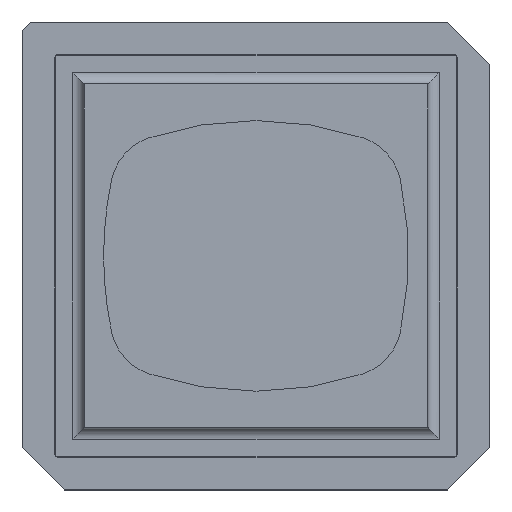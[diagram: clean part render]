
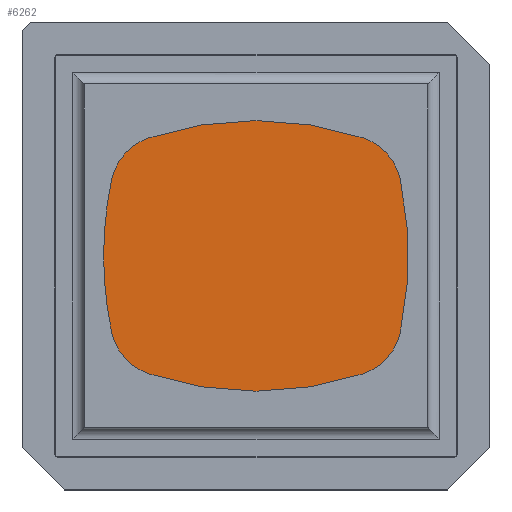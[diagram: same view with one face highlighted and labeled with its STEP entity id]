
A CAD part, top view. The second image highlights one B-rep face of the part: STEP entity #6262.
In plain terms, the highlighted planar face has unit normal (0, 0, 1).
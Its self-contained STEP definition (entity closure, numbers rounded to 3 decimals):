
#121 = CARTESIAN_POINT ( 'NONE',  ( 8.039, 5.806, 2.997 ) ) ;
#127 = CIRCLE ( 'NONE', #3893, 5.08 ) ;
#260 = ORIENTED_EDGE ( 'NONE', *, *, #5900, .F. ) ;
#302 = DIRECTION ( 'NONE',  ( 0., 0., -1. ) ) ;
#394 = CIRCLE ( 'NONE', #1288, 33.02 ) ;
#447 = DIRECTION ( 'NONE',  ( 0., 0., -1. ) ) ;
#553 = EDGE_CURVE ( 'NONE', #1071, #4688, #1819, .T. ) ;
#573 = AXIS2_PLACEMENT_3D ( 'NONE', #3464, #302, #1339 ) ;
#676 = VERTEX_POINT ( 'NONE', #4354 ) ;
#679 = DIRECTION ( 'NONE',  ( 0., 0., -1. ) ) ;
#752 = ORIENTED_EDGE ( 'NONE', *, *, #4280, .F. ) ;
#944 = CARTESIAN_POINT ( 'NONE',  ( -13.729, 0., 2.997 ) ) ;
#958 = CARTESIAN_POINT ( 'NONE',  ( 9.646, 10.625, 2.997 ) ) ;
#964 = VERTEX_POINT ( 'NONE', #3753 ) ;
#968 = AXIS2_PLACEMENT_3D ( 'NONE', #6118, #3525, #4175 ) ;
#1071 = VERTEX_POINT ( 'NONE', #2290 ) ;
#1170 = EDGE_LOOP ( 'NONE', ( #1596, #4345, #4201, #1462, #3496, #2849, #752, #5338, #260 ) ) ;
#1196 = CIRCLE ( 'NONE', #4286, 5.08 ) ;
#1288 = AXIS2_PLACEMENT_3D ( 'NONE', #5013, #2999, #4044 ) ;
#1299 = AXIS2_PLACEMENT_3D ( 'NONE', #121, #679, #2770 ) ;
#1339 = DIRECTION ( 'NONE',  ( -1., 0., 0. ) ) ;
#1462 = ORIENTED_EDGE ( 'NONE', *, *, #2031, .F. ) ;
#1596 = ORIENTED_EDGE ( 'NONE', *, *, #2574, .F. ) ;
#1639 = CARTESIAN_POINT ( 'NONE',  ( -8.039, 5.806, 2.997 ) ) ;
#1642 = DIRECTION ( 'NONE',  ( 0., 0., -1. ) ) ;
#1709 = VERTEX_POINT ( 'NONE', #5464 ) ;
#1722 = CIRCLE ( 'NONE', #2273, 33.02 ) ;
#1819 = CIRCLE ( 'NONE', #3644, 30.48 ) ;
#1838 = EDGE_CURVE ( 'NONE', #964, #5046, #5799, .T. ) ;
#2031 = EDGE_CURVE ( 'NONE', #1709, #4850, #1722, .T. ) ;
#2131 = DIRECTION ( 'NONE',  ( -1., 0., 0. ) ) ;
#2193 = DIRECTION ( 'NONE',  ( -1., 0., 0. ) ) ;
#2273 = AXIS2_PLACEMENT_3D ( 'NONE', #3681, #4720, #4241 ) ;
#2290 = CARTESIAN_POINT ( 'NONE',  ( 9.646, -10.625, 2.997 ) ) ;
#2574 = EDGE_CURVE ( 'NONE', #4688, #676, #1196, .T. ) ;
#2770 = DIRECTION ( 'NONE',  ( -1., 0., 0. ) ) ;
#2818 = DIRECTION ( 'NONE',  ( 0., 0., -1. ) ) ;
#2849 = ORIENTED_EDGE ( 'NONE', *, *, #1838, .F. ) ;
#2858 = CARTESIAN_POINT ( 'NONE',  ( -13.008, 6.862, 2.997 ) ) ;
#2999 = DIRECTION ( 'NONE',  ( 0., 0., -1. ) ) ;
#3251 = CIRCLE ( 'NONE', #1299, 5.08 ) ;
#3352 = CIRCLE ( 'NONE', #6025, 5.08 ) ;
#3360 = EDGE_CURVE ( 'NONE', #3405, #5305, #394, .T. ) ;
#3405 = VERTEX_POINT ( 'NONE', #944 ) ;
#3464 = CARTESIAN_POINT ( 'NONE',  ( 19.291, 0., 2.997 ) ) ;
#3496 = ORIENTED_EDGE ( 'NONE', *, *, #4441, .F. ) ;
#3509 = PLANE ( 'NONE',  #5610 ) ;
#3525 = DIRECTION ( 'NONE',  ( 0., 0., -1. ) ) ;
#3539 = DIRECTION ( 'NONE',  ( -1., 0., 0. ) ) ;
#3644 = AXIS2_PLACEMENT_3D ( 'NONE', #5048, #447, #2193 ) ;
#3681 = CARTESIAN_POINT ( 'NONE',  ( -19.291, 0., 2.997 ) ) ;
#3753 = CARTESIAN_POINT ( 'NONE',  ( -9.646, 10.625, 2.997 ) ) ;
#3893 = AXIS2_PLACEMENT_3D ( 'NONE', #5879, #1642, #2131 ) ;
#3906 = CARTESIAN_POINT ( 'NONE',  ( 5.626, -2.903, 2.997 ) ) ;
#3959 = DIRECTION ( 'NONE',  ( -1., 0., 0. ) ) ;
#4044 = DIRECTION ( 'NONE',  ( -1., 0., 0. ) ) ;
#4152 = DIRECTION ( 'NONE',  ( -1., 0., 0. ) ) ;
#4175 = DIRECTION ( 'NONE',  ( -1., 0., 0. ) ) ;
#4201 = ORIENTED_EDGE ( 'NONE', *, *, #5686, .F. ) ;
#4241 = DIRECTION ( 'NONE',  ( -1., 0., 0. ) ) ;
#4248 = CARTESIAN_POINT ( 'NONE',  ( 13.008, -6.862, 2.997 ) ) ;
#4280 = EDGE_CURVE ( 'NONE', #5305, #964, #3352, .T. ) ;
#4286 = AXIS2_PLACEMENT_3D ( 'NONE', #4845, #2818, #3959 ) ;
#4345 = ORIENTED_EDGE ( 'NONE', *, *, #553, .F. ) ;
#4354 = CARTESIAN_POINT ( 'NONE',  ( -13.008, -6.862, 2.997 ) ) ;
#4441 = EDGE_CURVE ( 'NONE', #5046, #1709, #3251, .T. ) ;
#4592 = CARTESIAN_POINT ( 'NONE',  ( -9.646, -10.625, 2.997 ) ) ;
#4688 = VERTEX_POINT ( 'NONE', #4592 ) ;
#4720 = DIRECTION ( 'NONE',  ( 0., 0., -1. ) ) ;
#4845 = CARTESIAN_POINT ( 'NONE',  ( -8.039, -5.806, 2.997 ) ) ;
#4850 = VERTEX_POINT ( 'NONE', #4248 ) ;
#5013 = CARTESIAN_POINT ( 'NONE',  ( 19.291, 0., 2.997 ) ) ;
#5046 = VERTEX_POINT ( 'NONE', #958 ) ;
#5048 = CARTESIAN_POINT ( 'NONE',  ( 0., 18.288, 2.997 ) ) ;
#5068 = CIRCLE ( 'NONE', #573, 33.02 ) ;
#5070 = DIRECTION ( 'NONE',  ( 0., 0., -1. ) ) ;
#5305 = VERTEX_POINT ( 'NONE', #2858 ) ;
#5338 = ORIENTED_EDGE ( 'NONE', *, *, #3360, .F. ) ;
#5464 = CARTESIAN_POINT ( 'NONE',  ( 13.008, 6.862, 2.997 ) ) ;
#5610 = AXIS2_PLACEMENT_3D ( 'NONE', #3906, #5070, #3539 ) ;
#5671 = FACE_OUTER_BOUND ( 'NONE', #1170, .T. ) ;
#5686 = EDGE_CURVE ( 'NONE', #4850, #1071, #127, .T. ) ;
#5744 = DIRECTION ( 'NONE',  ( 0., 0., -1. ) ) ;
#5799 = CIRCLE ( 'NONE', #968, 30.48 ) ;
#5879 = CARTESIAN_POINT ( 'NONE',  ( 8.039, -5.806, 2.997 ) ) ;
#5900 = EDGE_CURVE ( 'NONE', #676, #3405, #5068, .T. ) ;
#6025 = AXIS2_PLACEMENT_3D ( 'NONE', #1639, #5744, #4152 ) ;
#6118 = CARTESIAN_POINT ( 'NONE',  ( 0., -18.288, 2.997 ) ) ;
#6262 = ADVANCED_FACE ( 'NONE', ( #5671 ), #3509, .F. ) ;
